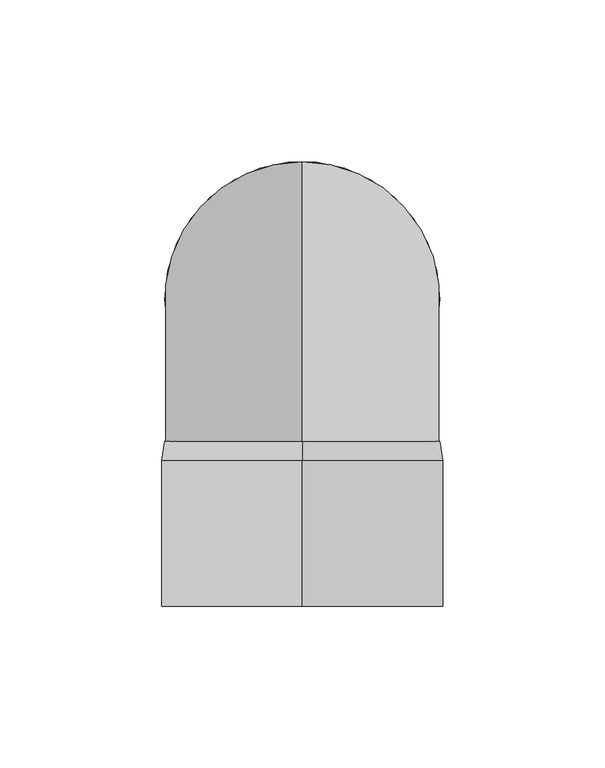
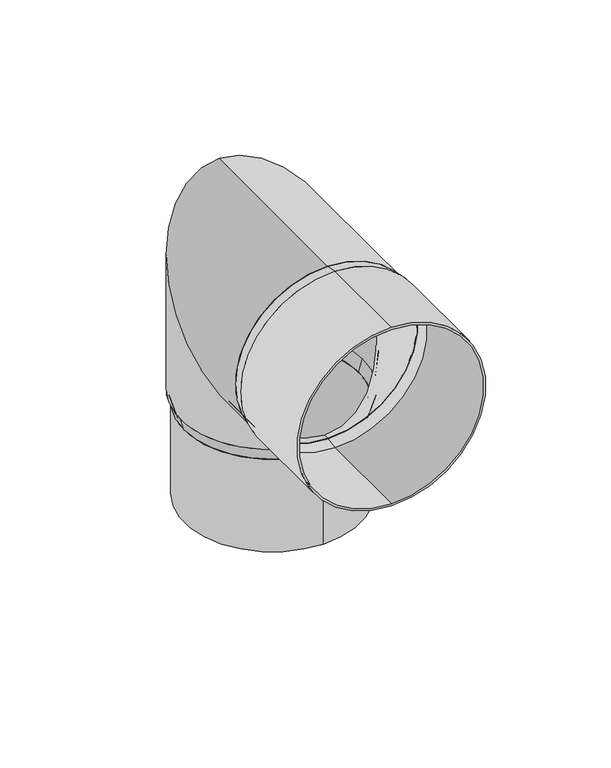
"""IFC4 building model written with IfcOpenShell, lengths in millimetres: proxy geometry, GROVIK_Downpipe_Knee : N85_90°_Up."""

from ifc_helpers import new_model, si_unit, point, frame, frame_2d, origin, origin_with_axes, origin_2d, place, context, project, spatial, polyline, circle_curve, ellipse_curve, trimmed, segment, composite_curve, outline, extrude, source, transform, mapped, element, save
from ifc_brep_helpers import plane_surface, cylinder_surface, revolved_surface, advanced_brep


def generic_models_4f330a92(model_context):
    return source(origin(), model_context, "Body", "SolidModel", [
        extrude(outline(composite_curve([segment(trimmed(circle_curve(origin_2d(), 40.7), [point((0.0, 40.7))], [point((0.0, -40.7))], False, "CARTESIAN"), True, "CONTINUOUS"), segment(trimmed(circle_curve(origin_2d(), 40.7), [point((0.0, -40.7))], [point((0.0, 40.7))], False, "CARTESIAN"), True, "CONTINUOUS")], self_intersect=False), holes=[composite_curve([segment(trimmed(circle_curve(origin_2d(), 39.7), [point((0.0, 39.7))], [point((0.0, -39.7))], True, "CARTESIAN"), True, "CONTINUOUS"), segment(trimmed(circle_curve(origin_2d(), 39.7), [point((0.0, -39.7))], [point((0.0, 39.7))], True, "CARTESIAN"), True, "CONTINUOUS")], self_intersect=False)]), frame((0.0, 0.0, -51.0), z_axis=(0.0, 0.0, 1.0), x_axis=(1.0, 0.0, 0.0)), (0.0, 0.0, 1.0), 45.0),
        advanced_brep(
        [(0.0, 42.5, 0.0), (0.0, -42.5, 0.0), (0.0, 41.5, 0.0), (0.0, -41.5, 0.0), (0.0, 41.5, 85.5), (0.0, -41.5, 2.5), (0.0, 42.5, 86.5), (0.0, -42.5, 1.5), (0.0, -44.0, 86.5), (0.0, -44.0, 1.5), (0.0, -44.0, 85.5), (0.0, -44.0, 2.5)],
        [
            (0, 1, circle_curve(frame((0.0, 0.0, 0.0), z_axis=(0.0, 0.0, -1.0), x_axis=(0.0, -1.0, 0.0)), 42.5)),
            (1, 0, circle_curve(frame((0.0, 0.0, 0.0), z_axis=(0.0, 0.0, -1.0), x_axis=(0.0, -1.0, 0.0)), 42.5)),
            (2, 3, circle_curve(frame((0.0, 0.0, 0.0), z_axis=(0.0, 0.0, 1.0), x_axis=(0.0, -1.0, 0.0)), 41.5)),
            (3, 2, circle_curve(frame((0.0, 0.0, 0.0), z_axis=(0.0, 0.0, 1.0), x_axis=(0.0, -1.0, 0.0)), 41.5)),
            (2, 4),
            (4, 5, ellipse_curve(frame((0.0, 0.0, 44.0), z_axis=(0.0, -0.7071067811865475, 0.7071067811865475), x_axis=(0.0, 0.7071067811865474, 0.7071067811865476)), 58.6898628, 41.5)),
            (5, 3),
            (5, 4, ellipse_curve(frame((0.0, 0.0, 44.0), z_axis=(0.0, -0.7071067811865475, 0.7071067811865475), x_axis=(0.0, 0.7071067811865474, 0.7071067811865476)), 58.6898628, 41.5)),
            (0, 6),
            (6, 7, ellipse_curve(frame((0.0, 0.0, 44.0), z_axis=(0.0, 0.7071067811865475, -0.7071067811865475), x_axis=(0.0, -0.7071067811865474, -0.7071067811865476)), 60.1040764, 42.5)),
            (7, 1),
            (7, 6, ellipse_curve(frame((0.0, 0.0, 44.0), z_axis=(0.0, 0.7071067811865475, -0.7071067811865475), x_axis=(0.0, -0.7071067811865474, -0.7071067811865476)), 60.1040764, 42.5)),
            (8, 9, circle_curve(frame((0.0, -44.0, 44.0), z_axis=(0.0, -1.0, 0.0), x_axis=(0.0, 0.0, -1.0)), 42.5)),
            (9, 8, circle_curve(frame((0.0, -44.0, 44.0), z_axis=(0.0, -1.0, 0.0), x_axis=(0.0, 0.0, -1.0)), 42.5)),
            (10, 11, circle_curve(frame((0.0, -44.0, 44.0), z_axis=(0.0, 1.0, 0.0), x_axis=(0.0, 0.0, -1.0)), 41.5)),
            (11, 10, circle_curve(frame((0.0, -44.0, 44.0), z_axis=(0.0, 1.0, 0.0), x_axis=(0.0, 0.0, -1.0)), 41.5)),
            (4, 10),
            (11, 5),
            (6, 8),
            (9, 7),
        ],
        [
            plane_surface(frame((0.0, 0.0, 0.0), z_axis=(0.0, 0.0, -1.0), x_axis=(1.0, 0.0, 0.0))),
            revolved_surface(polyline([(0.0, -41.5, 85.5), (0.0, -41.5, 0.0)]), (0.0, 0.0, 0.0), (0.0, 0.0, 1.0)),
            cylinder_surface(frame((0.0, 0.0, 0.0), z_axis=(0.0, 0.0, -1.0), x_axis=(0.0, -1.0, 0.0)), 42.5),
            plane_surface(frame((0.0, -44.0, 44.0), z_axis=(0.0, -1.0, 0.0), x_axis=(1.0, 0.0, 0.0))),
            revolved_surface(polyline([(0.0, -44.0, 2.5), (0.0, 41.5, 2.5)]), (0.0, 0.0, 44.0), (0.0, -1.0, 0.0)),
            cylinder_surface(frame((0.0, 0.0, 44.0), z_axis=(0.0, 1.0, 0.0), x_axis=(0.0, 0.0, -1.0)), 42.5),
        ],
        [
            (0, [[1, 2], [3, 4]]),
            (1, [[-3, 5, 6, 7]]),
            (1, [[-4, -7, 8, -5]]),
            (2, [[-1, 9, 10, 11]]),
            (2, [[-2, -11, 12, -9]]),
            (3, [[13, 14], [15, 16]]),
            (4, [[-6, 17, -16, 18]]),
            (4, [[-8, -18, -15, -17]]),
            (5, [[-10, 19, -14, 20]]),
            (5, [[-12, -20, -13, -19]]),
        ],
    ),
        advanced_brep(
        [(-40.7, 0.0, -6.0), (40.7, 0.0, -6.0), (-39.7, 0.0, -6.0), (39.7, 0.0, -6.0), (-42.5, 0.0, 0.0), (42.5, 0.0, 0.0), (41.5, 0.0, 0.0), (-41.5, 0.0, 0.0)],
        [
            (0, 1, circle_curve(frame((0.0, 0.0, -6.0), z_axis=(0.0, 0.0, -1.0), x_axis=(-1.0, 0.0, 0.0)), 40.7)),
            (1, 0, circle_curve(frame((0.0, 0.0, -6.0), z_axis=(0.0, 0.0, -1.0), x_axis=(1.0, 0.0, 0.0)), 40.7)),
            (2, 3, circle_curve(frame((0.0, 0.0, -6.0), z_axis=(0.0, 0.0, 1.0), x_axis=(1.0, 0.0, 0.0)), 39.7)),
            (3, 2, circle_curve(frame((0.0, 0.0, -6.0), z_axis=(0.0, 0.0, 1.0), x_axis=(-1.0, 0.0, 0.0)), 39.7)),
            (4, 5, circle_curve(origin_with_axes(), 42.5)),
            (5, 4, circle_curve(frame((0.0, 0.0, 0.0), z_axis=(0.0, 0.0, 1.0), x_axis=(-1.0, 0.0, 0.0)), 42.5)),
            (6, 7, circle_curve(frame((0.0, 0.0, 0.0), z_axis=(0.0, 0.0, -1.0), x_axis=(1.0, 0.0, 0.0)), 41.5)),
            (7, 6, circle_curve(frame((0.0, 0.0, 0.0), z_axis=(0.0, 0.0, -1.0), x_axis=(-1.0, 0.0, 0.0)), 41.5)),
            (1, 5),
            (4, 0),
            (6, 3),
            (2, 7),
        ],
        [
            plane_surface(frame((0.0, 0.0, -6.0), z_axis=(0.0, 0.0, -1.0), x_axis=(0.0, 1.0, 0.0))),
            plane_surface(frame((0.0, 0.0, 0.0), z_axis=(0.0, 0.0, 1.0), x_axis=(0.0, 1.0, 0.0))),
            revolved_surface(polyline([(40.70000000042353, 0.0, -6.0), (42.5, 0.0, 0.0)]), (0.0, 0.0, -141.6666667), (0.0, 0.0, 1.0)),
            revolved_surface(polyline([(-40.70000000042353, 0.0, -6.0), (-42.5, 0.0, 0.0)]), (0.0, 0.0, -141.6666667), (0.0, 0.0, 1.0)),
            revolved_surface(polyline([(41.5, 0.0, 0.0), (39.699999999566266, 0.0, -6.0)]), (0.0, 0.0, -138.3333333), (0.0, 0.0, 1.0)),
        ],
        [
            (0, [[1, 2], [3, 4]]),
            (1, [[5, 6], [7, 8]]),
            (2, [[-2, 9, -5, 10]]),
            (3, [[-1, -10, -6, -9]]),
            (4, [[11, -3, 12, -7]]),
            (4, [[-11, -8, -12, -4]]),
        ],
    ),
        extrude(outline(composite_curve([segment(trimmed(circle_curve(frame_2d((44.0, 0.0)), 43.5), [point((0.5, 0.0))], [point((87.5, 0.0))], False, "CARTESIAN"), True, "CONTINUOUS"), segment(trimmed(circle_curve(frame_2d((44.0, 0.0)), 43.5), [point((87.5, 0.0))], [point((0.5, 0.0))], False, "CARTESIAN"), True, "CONTINUOUS")], self_intersect=False), holes=[composite_curve([segment(trimmed(circle_curve(frame_2d((44.0, 0.0)), 42.5), [point((1.5, 0.0))], [point((86.5, 0.0))], True, "CARTESIAN"), True, "CONTINUOUS"), segment(trimmed(circle_curve(frame_2d((44.0, 0.0)), 42.5), [point((86.5, 0.0))], [point((1.5, 0.0))], True, "CARTESIAN"), True, "CONTINUOUS")], self_intersect=False)]), frame((0.0, -95.0, 0.0), z_axis=(0.0, 1.0, 0.0), x_axis=(0.0, 0.0, 1.0)), (0.0, 0.0, 1.0), 45.0),
        advanced_brep(
        [(0.0, -44.0, 1.5), (0.0, -44.0, 86.5), (0.0, -44.0, 85.5), (0.0, -44.0, 2.5), (0.0, -50.0, 0.5), (0.0, -50.0, 87.5), (0.0, -50.0, 1.5), (0.0, -50.0, 86.5)],
        [
            (0, 1, circle_curve(frame((0.0, -44.0, 44.0), z_axis=(0.0, 1.0, 0.0), x_axis=(0.0, 0.0, -1.0)), 42.5)),
            (1, 0, circle_curve(frame((0.0, -44.0, 44.0), z_axis=(0.0, 1.0, 0.0), x_axis=(0.0, 0.0, 1.0)), 42.5)),
            (2, 3, circle_curve(frame((0.0, -44.0, 44.0), z_axis=(0.0, -1.0, 0.0), x_axis=(0.0, 0.0, -1.0)), 41.5)),
            (3, 2, circle_curve(frame((0.0, -44.0, 44.0), z_axis=(0.0, -1.0, 0.0), x_axis=(0.0, 0.0, 1.0)), 41.5)),
            (4, 5, circle_curve(frame((0.0, -50.0, 44.0), z_axis=(0.0, -1.0, 0.0), x_axis=(0.0, 0.0, 1.0)), 43.5)),
            (5, 4, circle_curve(frame((0.0, -50.0, 44.0), z_axis=(0.0, -1.0, 0.0), x_axis=(0.0, 0.0, -1.0)), 43.5)),
            (6, 7, circle_curve(frame((0.0, -50.0, 44.0), z_axis=(0.0, 1.0, 0.0), x_axis=(0.0, 0.0, -1.0)), 42.5)),
            (7, 6, circle_curve(frame((0.0, -50.0, 44.0), z_axis=(0.0, 1.0, 0.0), x_axis=(0.0, 0.0, 1.0)), 42.5)),
            (0, 4),
            (5, 1),
            (6, 3),
            (2, 7),
        ],
        [
            plane_surface(frame((0.0, -44.0, 44.0), z_axis=(0.0, 1.0, 0.0), x_axis=(-1.0, 0.0, 0.0))),
            plane_surface(frame((0.0, -50.0, 44.0), z_axis=(0.0, -1.0, 0.0), x_axis=(-1.0, 0.0, 0.0))),
            revolved_surface(polyline([(0.0, -44.0, 1.5), (0.0, -50.0, 0.5)]), (0.0, 211.0, 44.0), (0.0, -1.0, 0.0)),
            revolved_surface(polyline([(0.0, -44.0, 86.5), (0.0, -50.0, 87.5)]), (0.0, 211.0, 44.0), (0.0, -1.0, 0.0)),
            revolved_surface(polyline([(0.0, -50.0, 1.5), (0.0, -44.0, 2.5)]), (0.0, 205.0, 44.0), (0.0, -1.0, 0.0)),
        ],
        [
            (0, [[1, 2], [3, 4]]),
            (1, [[5, 6], [7, 8]]),
            (2, [[-1, 9, -6, 10]]),
            (3, [[-2, -10, -5, -9]]),
            (4, [[11, -3, 12, -7]]),
            (4, [[-11, -8, -12, -4]]),
        ],
    ),
    ])


if __name__ == "__main__":
    model = new_model("IFC4")
    model_context = context("Model", 3, world=origin())
    ifc_project = project(units=[si_unit("LENGTHUNIT", "METRE", prefix="MILLI")], contexts=[model_context])
    site = spatial("IfcSite", under=ifc_project)
    building = spatial("IfcBuilding", under=site)
    placement = place(None, origin())
    generic_models_shape = generic_models_4f330a92(model_context)
    element("IfcBuildingElementProxy", 1, Name="GROVIK_Downpipe_Knee : N85_90°_Up", ObjectType="GROVIK_Downpipe_Knee : N85_90°_Up", at=placement, inside=building, context=model_context, shape_type="MappedRepresentation", body=[
        mapped(generic_models_shape, transform((0.0, 0.0, 0.0), x_axis=(1.0, 0.0, 0.0), y_axis=(0.0, 1.0, 0.0), z_axis=(0.0, 0.0, 1.0))),
    ])
    save(model, "model.ifc")
